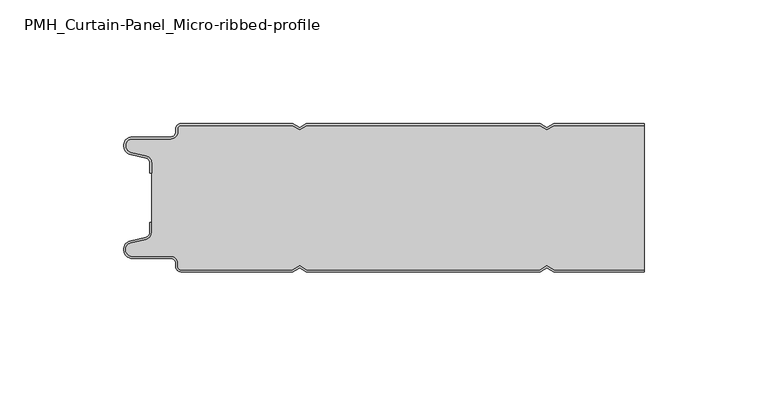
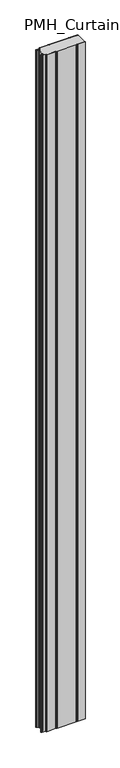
"""IFC4 building model written with IfcOpenShell, lengths in millimetres: plate geometry, PMH_Curtain-Panel_Micro-ribbed-profile : ACH_PMH_Stone-wool-Panel_60M."""

import ifcopenshell
import ifcopenshell.guid

model = None  # the IFC model being written
_history = None  # IfcOwnerHistory: only IFC2X3 demands one
_inside = {}  # id of a spatial element -> (the spatial element, [elements in it])
_under = {}  # id of a project, library or spatial element -> (it, [spatial elements below it])
_declared = {}  # id of a project -> (the project, [libraries it declares])
_typed = {}  # id of a type object -> (the type object, [elements of that type])
_made_of = {}  # id of a material, layer set ... -> (it, [elements and type objects made of it])


def new_model(schema):
    """Start an empty IFC model of exactly this schema.

    Asked for "IFC4X3", IfcOpenShell would pick the latest addendum, in which some entities
    have other attributes; the version numbers below select the first issue.
    IFC2X3 requires an IfcOwnerHistory on every rooted entity: one is made here for all.
    """
    global model, _history
    if schema == "IFC4X3":
        model = ifcopenshell.file(schema_version=(4, 3, 0, 0))
    else:
        model = ifcopenshell.file(schema=schema)
    _inside.clear()
    _under.clear()
    _declared.clear()
    _typed.clear()
    _made_of.clear()
    _history = None
    if model.schema == "IFC2X3":
        org = make("IfcOrganization", Name="unknown")
        user = make(
            "IfcPersonAndOrganization",
            ThePerson=make("IfcPerson", FamilyName="unknown"),
            TheOrganization=org,
        )
        app = make(
            "IfcApplication",
            ApplicationDeveloper=org,
            Version="unknown",
            ApplicationFullName="unknown",
            ApplicationIdentifier="unknown",
        )
        _history = make(
            "IfcOwnerHistory",
            OwningUser=user,
            OwningApplication=app,
            ChangeAction="ADDED",
            CreationDate=0,
        )
    return model


def make(cls, **values):
    """One entity of the class cls with the attributes given. An attribute that is None is left unset."""
    return model.create_entity(
        cls, **{name: value for name, value in values.items() if value is not None}
    )


def rooted(cls, **values):
    """An entity with a GlobalId (a new one), such as an element, a storey or a relation."""
    return make(cls, GlobalId=ifcopenshell.guid.new(), OwnerHistory=_history, **values)


def si_unit(unit_type, name, prefix=None):
    """IfcSIUnit, for example si_unit("LENGTHUNIT", "METRE", prefix="MILLI")."""
    return make("IfcSIUnit", UnitType=unit_type, Prefix=prefix, Name=name)


def assignment(units):
    """IfcUnitAssignment: the units of a project."""
    return None if units is None else make("IfcUnitAssignment", Units=units)


def point(xyz):
    """IfcCartesianPoint."""
    return None if xyz is None else make("IfcCartesianPoint", Coordinates=xyz)


def direction(xyz):
    """IfcDirection."""
    return None if xyz is None else make("IfcDirection", DirectionRatios=xyz)


def frame(location, z_axis=None, x_axis=None):
    """IfcAxis2Placement3D, a coordinate frame: its origin and axes. An axis left out is left unset."""
    return make(
        "IfcAxis2Placement3D",
        Location=point(location),
        Axis=direction(z_axis),
        RefDirection=direction(x_axis),
    )


def frame_2d(location, x_axis=None):
    """IfcAxis2Placement2D, a coordinate frame in the plane: its origin and x axis."""
    return make(
        "IfcAxis2Placement2D", Location=point(location), RefDirection=direction(x_axis)
    )


def origin():
    """The frame at (0, 0, 0) with its axes left unset."""
    return frame((0.0, 0.0, 0.0))


def origin_with_axes():
    """The frame at (0, 0, 0) with the z axis (0, 0, 1) and the x axis (1, 0, 0) written out."""
    return frame((0.0, 0.0, 0.0), z_axis=(0.0, 0.0, 1.0), x_axis=(1.0, 0.0, 0.0))


def place(relative_to, where):
    """IfcLocalPlacement: puts the frame where relative to a parent placement (None: the world)."""
    return make(
        "IfcLocalPlacement", PlacementRelTo=relative_to, RelativePlacement=where
    )


def context(
    kind, dimensions, precision=None, world=None, true_north=None, identifier=None
):
    """IfcGeometricRepresentationContext, for example the 3D "Model" context."""
    return make(
        "IfcGeometricRepresentationContext",
        ContextIdentifier=identifier,
        ContextType=kind,
        CoordinateSpaceDimension=dimensions,
        Precision=precision,
        WorldCoordinateSystem=world,
        TrueNorth=true_north,
    )


def project(units=None, contexts=None):
    """IfcProject with its units and contexts."""
    return rooted(
        "IfcProject",
        Name="project",
        RepresentationContexts=contexts,
        UnitsInContext=assignment(units),
    )


def spatial(cls, under=None, at=None, **own):
    """A site, building, storey or space (cls), placed at a placement, below another one or the project."""
    s = rooted(cls, ObjectPlacement=at, **own)
    if under is not None:
        _under.setdefault(under.id(), (under, []))[1].append(s)
    return s


def polyline(points):
    """IfcPolyline through the points."""
    return make("IfcPolyline", Points=[point(p) for p in points])


def circle_curve(where, radius):
    """IfcCircle in the frame where."""
    return make("IfcCircle", Position=where, Radius=radius)


def trimmed(basis, trim1, trim2, sense, master):
    """IfcTrimmedCurve: the piece of a basis curve between two trims."""
    return make(
        "IfcTrimmedCurve",
        BasisCurve=basis,
        Trim1=trim1,
        Trim2=trim2,
        SenseAgreement=sense,
        MasterRepresentation=master,
    )


def segment(curve, same_sense, transition):
    """IfcCompositeCurveSegment."""
    return make(
        "IfcCompositeCurveSegment",
        Transition=transition,
        SameSense=same_sense,
        ParentCurve=curve,
    )


def composite_curve(segments, self_intersect=None):
    """IfcCompositeCurve: segments joined end to end."""
    return make("IfcCompositeCurve", Segments=segments, SelfIntersect=self_intersect)


def outline(outer, holes=None, kind="AREA"):
    """IfcArbitraryClosedProfileDef: a profile drawn as a closed curve; with holes, ...WithVoids."""
    if holes is None:
        return make("IfcArbitraryClosedProfileDef", ProfileType=kind, OuterCurve=outer)
    return make(
        "IfcArbitraryProfileDefWithVoids",
        ProfileType=kind,
        OuterCurve=outer,
        InnerCurves=holes,
    )


def extrude(swept, where, along, depth):
    """IfcExtrudedAreaSolid: the profile swept, set in the frame where, extruded along a direction by depth."""
    return make(
        "IfcExtrudedAreaSolid",
        SweptArea=swept,
        Position=where,
        ExtrudedDirection=direction(along),
        Depth=depth,
    )


def shape(context_of_items, identifier, shape_type, items):
    """IfcShapeRepresentation: the items that make up one representation, for example the "Body"."""
    return make(
        "IfcShapeRepresentation",
        ContextOfItems=context_of_items,
        RepresentationIdentifier=identifier,
        RepresentationType=shape_type,
        Items=items,
    )


def source(mapping_origin, context_of_items, identifier, shape_type, items):
    """IfcRepresentationMap: a shape defined once, which mapped items show again and again."""
    return make(
        "IfcRepresentationMap",
        MappingOrigin=mapping_origin,
        MappedRepresentation=shape(context_of_items, identifier, shape_type, items),
    )


def transform(
    local_origin,
    x_axis=None,
    y_axis=None,
    z_axis=None,
    scale=None,
    scale2=None,
    scale3=None,
    uniform=True,
):
    """IfcCartesianTransformationOperator3D, or its non-uniform kind. x_axis, y_axis, z_axis: its Axis1, 2, 3."""
    if uniform:
        return make(
            "IfcCartesianTransformationOperator3D",
            Axis1=direction(x_axis),
            Axis2=direction(y_axis),
            LocalOrigin=point(local_origin),
            Scale=scale,
            Axis3=direction(z_axis),
        )
    return make(
        "IfcCartesianTransformationOperator3DnonUniform",
        Axis1=direction(x_axis),
        Axis2=direction(y_axis),
        LocalOrigin=point(local_origin),
        Scale=scale,
        Axis3=direction(z_axis),
        Scale2=scale2,
        Scale3=scale3,
    )


def mapped(mapping_source, mapping_target):
    """IfcMappedItem: shows the shape of a source again, moved by a transform."""
    return make(
        "IfcMappedItem", MappingSource=mapping_source, MappingTarget=mapping_target
    )


def made_of(thing, what):
    """Note that an element or type object is made of a material, layer set ...; save() writes the relation."""
    if what is not None:
        _made_of.setdefault(what.id(), (what, []))[1].append(thing)
    return thing


def element(
    cls,
    number,
    at=None,
    inside=None,
    cuts=None,
    type_object=None,
    material=None,
    context=None,
    identifier="Body",
    shape_type=None,
    held_by="IfcProductDefinitionShape",
    body=None,
    shapes=None,
    **own,
):
    """One element of the class cls, such as IfcWall. Its Tag is "e" and its number.

    at: its placement. inside: the storey or other place that contains it. cuts: it is an
    opening in that element (IfcRelVoidsElement). A single representation is given by context,
    identifier, shape_type and body (its items); several are given by shapes. held_by: the class
    of the entity that holds the representations. save() writes the other relations.
    """
    e = rooted(cls, Tag="e%d" % number, ObjectPlacement=at, **own)
    if body is not None:
        shapes = [shape(context, identifier, shape_type, body)]
    if shapes is not None:
        e.Representation = make(held_by, Representations=shapes)
    if inside is not None:
        _inside.setdefault(inside.id(), (inside, []))[1].append(e)
    if cuts is not None:
        rooted(
            "IfcRelVoidsElement", RelatingBuildingElement=cuts, RelatedOpeningElement=e
        )
    if type_object is not None:
        _typed.setdefault(type_object.id(), (type_object, []))[1].append(e)
    return made_of(e, material)


def aggregate(whole, parts):
    """IfcRelAggregates: a whole, such as a stair, and the parts it consists of."""
    return rooted("IfcRelAggregates", RelatingObject=whole, RelatedObjects=parts)


def save(model, path):
    """Write the relations noted so far, then the file.

    IfcRelAggregates (storeys below a building ...), IfcRelContainedInSpatialStructure (elements
    in a storey), IfcRelDefinesByType, IfcRelAssociatesMaterial and IfcRelDeclares: one each for
    every whole, place, type object, material and project.
    """
    for whole, parts in _under.values():
        aggregate(whole, parts)
    for where, things in _inside.values():
        rooted(
            "IfcRelContainedInSpatialStructure",
            RelatedElements=things,
            RelatingStructure=where,
        )
    for kind, things in _typed.values():
        rooted("IfcRelDefinesByType", RelatedObjects=things, RelatingType=kind)
    for what, things in _made_of.values():
        rooted("IfcRelAssociatesMaterial", RelatedObjects=things, RelatingMaterial=what)
    for by, libraries in _declared.values():
        rooted("IfcRelDeclares", RelatingContext=by, RelatedDefinitions=libraries)
    model.write(path)


def pmh_curtain_panel_micro_ribbed_profile_d62956a7(model_context):
    return source(origin(), model_context, "Body", "SweptSolid", [
        extrude(outline(composite_curve([segment(trimmed(circle_curve(frame_2d((-102.0, -15.878557)), 2.0), [point((-100.0, -15.878557))], [point((-101.5500978, -13.9298169))], True, "CARTESIAN"), True, "CONTINUOUS"), segment(polyline([(-101.5500978, -13.9298169), (-107.7098239, -12.507732)]), True, "CONTINUOUS"), segment(trimmed(circle_curve(frame_2d((-106.9, -9.0)), 3.6), [point((-107.7098239, -12.507732))], [point((-106.9, -5.4))], False, "CARTESIAN"), True, "CONTINUOUS"), segment(polyline([(-106.9, -5.4), (-91.4, -5.4)]), True, "CONTINUOUS"), segment(trimmed(circle_curve(frame_2d((-91.4, -3.4)), 2.0), [point((-91.4, -5.4))], [point((-89.4, -3.4))], True, "CARTESIAN"), True, "CONTINUOUS"), segment(polyline([(-89.4, -3.4), (-89.4, -2.0)]), True, "CONTINUOUS"), segment(trimmed(circle_curve(frame_2d((-87.4, -2.0)), 2.0), [point((-89.4, -2.0))], [point((-87.4, 0.0))], False, "CARTESIAN"), True, "CONTINUOUS"), segment(polyline([(-87.4, 0.0), (-42.0999995, 0.0), (-39.4, -1.5588455), (-36.7000005, 0.0), (57.9000005, 0.0), (60.6, -1.5588455), (63.2999995, 0.0), (100.0, 0.0), (100.0, -0.8), (63.5143588, -0.8), (60.6, -2.482606), (57.6856412, -0.8), (-36.4856412, -0.8), (-39.4, -2.482606), (-42.3143588, -0.8), (-87.4, -0.8)]), True, "CONTINUOUS"), segment(trimmed(circle_curve(frame_2d((-87.4, -2.0)), 1.2), [point((-87.4, -0.8))], [point((-88.6, -2.0))], True, "CARTESIAN"), True, "CONTINUOUS"), segment(polyline([(-88.6, -2.0), (-88.6, -3.4)]), True, "CONTINUOUS"), segment(trimmed(circle_curve(frame_2d((-91.4, -3.4)), 2.8), [point((-88.6, -3.4))], [point((-91.4, -6.2))], False, "CARTESIAN"), True, "CONTINUOUS"), segment(polyline([(-91.4, -6.2), (-106.9, -6.2)]), True, "CONTINUOUS"), segment(trimmed(circle_curve(frame_2d((-106.9, -9.0)), 2.8), [point((-106.9, -6.2))], [point((-107.529863, -11.7282362))], True, "CARTESIAN"), True, "CONTINUOUS"), segment(polyline([(-107.529863, -11.7282362), (-101.370137, -13.150321)]), True, "CONTINUOUS"), segment(trimmed(circle_curve(frame_2d((-102.0, -15.878557)), 2.8), [point((-101.370137, -13.150321))], [point((-99.2, -15.878557))], False, "CARTESIAN"), True, "CONTINUOUS"), segment(polyline([(-99.2, -15.878557), (-99.2, -20.0), (-100.0, -20.0), (-100.0, -15.878557)]), True, "CONTINUOUS")], self_intersect=False)), origin_with_axes(), (0.0, 0.0, 1.0), 3500.0),
        extrude(outline(composite_curve([segment(polyline([(-99.2, -44.1214426), (-99.2, -15.8785573)]), True, "CONTINUOUS"), segment(trimmed(circle_curve(frame_2d((-102.0, -15.8785573)), 2.8), [point((-99.2, -15.8785573))], [point((-101.370137, -13.1503212))], True, "CARTESIAN"), True, "CONTINUOUS"), segment(polyline([(-101.370137, -13.1503212), (-107.5298631, -11.7282362)]), True, "CONTINUOUS"), segment(trimmed(circle_curve(frame_2d((-106.9, -9.0)), 2.8), [point((-107.5298631, -11.7282362))], [point((-106.9, -6.2))], False, "CARTESIAN"), True, "CONTINUOUS"), segment(polyline([(-106.9, -6.2), (-91.4000001, -6.2)]), True, "CONTINUOUS"), segment(trimmed(circle_curve(frame_2d((-91.4000001, -3.4)), 2.8), [point((-91.4000001, -6.2))], [point((-88.6000001, -3.4))], True, "CARTESIAN"), True, "CONTINUOUS"), segment(polyline([(-88.6000001, -3.4), (-88.6000001, -2.0)]), True, "CONTINUOUS"), segment(trimmed(circle_curve(frame_2d((-87.4000001, -2.0)), 1.2), [point((-88.6000001, -2.0))], [point((-87.4000001, -0.8))], False, "CARTESIAN"), True, "CONTINUOUS"), segment(polyline([(-87.4000001, -0.8), (-42.3143589, -0.8), (-39.4000001, -2.482606), (-36.4856412, -0.8), (57.6856411, -0.8), (60.5999999, -2.482606), (63.5143588, -0.8), (100.0, -0.8), (100.0, -59.2), (63.5143588, -59.2), (60.5999999, -57.517394), (57.6856411, -59.2), (-36.4856412, -59.2), (-39.4000001, -57.517394), (-42.3143589, -59.2), (-87.4000001, -59.2)]), True, "CONTINUOUS"), segment(trimmed(circle_curve(frame_2d((-87.4000001, -58.0)), 1.2), [point((-87.4000001, -59.2))], [point((-88.6000001, -58.0))], False, "CARTESIAN"), True, "CONTINUOUS"), segment(polyline([(-88.6000001, -58.0), (-88.6000001, -56.6)]), True, "CONTINUOUS"), segment(trimmed(circle_curve(frame_2d((-91.4000001, -56.6)), 2.8), [point((-88.6000001, -56.6))], [point((-91.4000001, -53.8))], True, "CARTESIAN"), True, "CONTINUOUS"), segment(polyline([(-91.4000001, -53.8), (-106.9, -53.8)]), True, "CONTINUOUS"), segment(trimmed(circle_curve(frame_2d((-106.9, -51.0)), 2.8), [point((-106.9, -53.8))], [point((-107.5298631, -48.2717638))], False, "CARTESIAN"), True, "CONTINUOUS"), segment(polyline([(-107.5298631, -48.2717638), (-101.370137, -46.8496788)]), True, "CONTINUOUS"), segment(trimmed(circle_curve(frame_2d((-102.0, -44.1214426)), 2.8), [point((-101.370137, -46.8496788))], [point((-99.2, -44.1214426))], True, "CARTESIAN"), True, "CONTINUOUS")], self_intersect=False)), origin_with_axes(), (0.0, 0.0, 1.0), 3500.0),
        extrude(outline(composite_curve([segment(polyline([(-100.0, -44.121443), (-100.0, -40.0), (-99.2, -40.0), (-99.2, -44.121443)]), True, "CONTINUOUS"), segment(trimmed(circle_curve(frame_2d((-102.0, -44.121443)), 2.8), [point((-99.2, -44.121443))], [point((-101.370137, -46.8496792))], False, "CARTESIAN"), True, "CONTINUOUS"), segment(polyline([(-101.370137, -46.8496792), (-107.529863, -48.271764)]), True, "CONTINUOUS"), segment(trimmed(circle_curve(frame_2d((-106.9, -51.0)), 2.8), [point((-107.529863, -48.271764))], [point((-106.9, -53.8))], True, "CARTESIAN"), True, "CONTINUOUS"), segment(polyline([(-106.9, -53.8), (-91.4, -53.8)]), True, "CONTINUOUS"), segment(trimmed(circle_curve(frame_2d((-91.4, -56.6)), 2.8), [point((-91.4, -53.8))], [point((-88.6, -56.6))], False, "CARTESIAN"), True, "CONTINUOUS"), segment(polyline([(-88.6, -56.6), (-88.6, -58.0)]), True, "CONTINUOUS"), segment(trimmed(circle_curve(frame_2d((-87.4, -58.0)), 1.2), [point((-88.6, -58.0))], [point((-87.4, -59.2))], True, "CARTESIAN"), True, "CONTINUOUS"), segment(polyline([(-87.4, -59.2), (-42.3143588, -59.2), (-39.4, -57.517394), (-36.4856412, -59.2), (57.6856412, -59.2), (60.6, -57.517394), (63.5143588, -59.2), (100.0, -59.2), (100.0, -60.0), (63.2999995, -60.0), (60.6, -58.4411545), (57.9000005, -60.0), (-36.7000005, -60.0), (-39.4, -58.4411545), (-42.0999995, -60.0), (-87.4, -60.0)]), True, "CONTINUOUS"), segment(trimmed(circle_curve(frame_2d((-87.4, -58.0)), 2.0), [point((-87.4, -60.0))], [point((-89.4, -58.0))], False, "CARTESIAN"), True, "CONTINUOUS"), segment(polyline([(-89.4, -58.0), (-89.4, -56.6)]), True, "CONTINUOUS"), segment(trimmed(circle_curve(frame_2d((-91.4, -56.6)), 2.0), [point((-89.4, -56.6))], [point((-91.4, -54.6))], True, "CARTESIAN"), True, "CONTINUOUS"), segment(polyline([(-91.4, -54.6), (-106.9, -54.6)]), True, "CONTINUOUS"), segment(trimmed(circle_curve(frame_2d((-106.9, -51.0)), 3.6), [point((-106.9, -54.6))], [point((-107.7098239, -47.4922678))], False, "CARTESIAN"), True, "CONTINUOUS"), segment(polyline([(-107.7098239, -47.4922678), (-101.5500979, -46.070183)]), True, "CONTINUOUS"), segment(trimmed(circle_curve(frame_2d((-102.0, -44.121443)), 2.0), [point((-101.5500979, -46.070183))], [point((-100.0, -44.121443))], True, "CARTESIAN"), True, "CONTINUOUS")], self_intersect=False)), origin_with_axes(), (0.0, 0.0, 1.0), 3500.0),
    ])


if __name__ == "__main__":
    model = new_model("IFC4")
    model_context = context("Model", 3, world=origin())
    ifc_project = project(units=[si_unit("LENGTHUNIT", "METRE", prefix="MILLI")], contexts=[model_context])
    site = spatial("IfcSite", under=ifc_project)
    building = spatial("IfcBuilding", under=site)
    placement = place(None, origin())
    pmh_curtain_panel_micro_ribbed_profile_shape = pmh_curtain_panel_micro_ribbed_profile_d62956a7(model_context)
    element("IfcPlate", 1, ObjectType="PMH_Curtain-Panel_Micro-ribbed-profile : ACH_PMH_Stone-wool-Panel_60M", at=placement, inside=building, context=model_context, shape_type="MappedRepresentation", body=[
        mapped(pmh_curtain_panel_micro_ribbed_profile_shape, transform((0.0, 0.0, 0.0), x_axis=(1.0, 0.0, 0.0), y_axis=(0.0, 1.0, 0.0), z_axis=(0.0, 0.0, 1.0))),
    ])
    save(model, "model.ifc")
